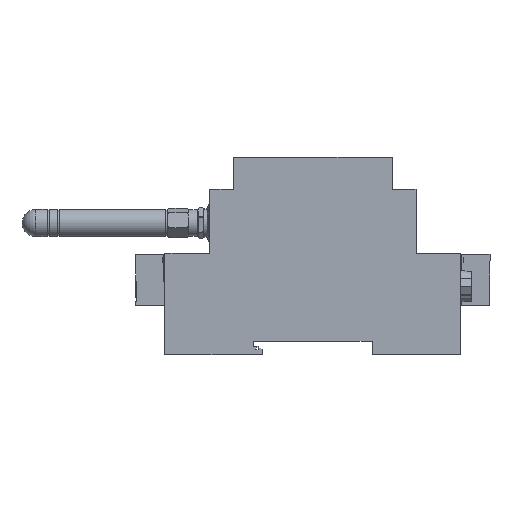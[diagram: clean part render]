
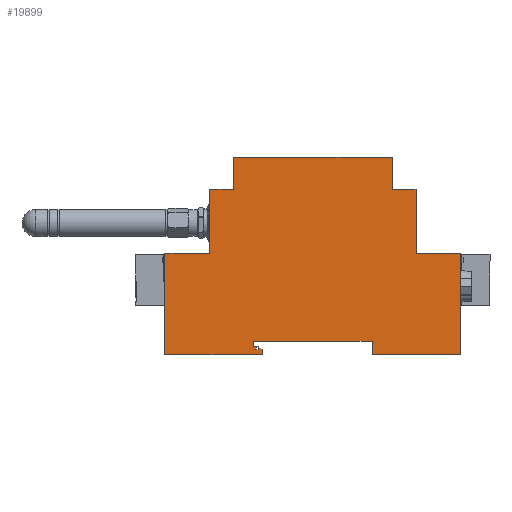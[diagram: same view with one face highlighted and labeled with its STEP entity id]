
A CAD part, left-side view. The second image highlights one B-rep face of the part: STEP entity #19899.
In plain terms, the highlighted planar face has unit normal (-1, 0, 0).
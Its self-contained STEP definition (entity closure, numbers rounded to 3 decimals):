
#19899=ADVANCED_FACE('',(#36994),#36996,.T.);
#36994=FACE_BOUND('',#36995,.T.);
#36995=EDGE_LOOP('',(#48059,#48060,#48061,#48062,#48063,#48064,#48065,#48066,#48067,
#48068,#48069,#48070,#48071,#48072,#48073,#48074,#48075,#48076,#48077,#48078,#48079,
#48080,#48081));
#36996=PLANE('',#36997);
#36997=AXIS2_PLACEMENT_3D('',#36998,#36999,#37000);
#36998=CARTESIAN_POINT('',(0.,0.,0.));
#36999=DIRECTION('',(-1.,-0.,-0.));
#37000=DIRECTION('',(0.,0.,-1.));
#48059=ORIENTED_EDGE('',*,*,#54131,.T.);
#48060=ORIENTED_EDGE('',*,*,#54132,.T.);
#48061=ORIENTED_EDGE('',*,*,#54133,.T.);
#48062=ORIENTED_EDGE('',*,*,#54134,.T.);
#48063=ORIENTED_EDGE('',*,*,#54135,.T.);
#48064=ORIENTED_EDGE('',*,*,#54136,.T.);
#48065=ORIENTED_EDGE('',*,*,#54137,.T.);
#48066=ORIENTED_EDGE('',*,*,#54138,.T.);
#48067=ORIENTED_EDGE('',*,*,#54139,.T.);
#48068=ORIENTED_EDGE('',*,*,#54140,.T.);
#48069=ORIENTED_EDGE('',*,*,#54141,.T.);
#48070=ORIENTED_EDGE('',*,*,#54142,.T.);
#48071=ORIENTED_EDGE('',*,*,#54143,.T.);
#48072=ORIENTED_EDGE('',*,*,#53130,.T.);
#48073=ORIENTED_EDGE('',*,*,#54130,.T.);
#48074=ORIENTED_EDGE('',*,*,#54144,.T.);
#48075=ORIENTED_EDGE('',*,*,#54145,.T.);
#48076=ORIENTED_EDGE('',*,*,#54146,.T.);
#48077=ORIENTED_EDGE('',*,*,#54147,.T.);
#48078=ORIENTED_EDGE('',*,*,#54148,.T.);
#48079=ORIENTED_EDGE('',*,*,#54149,.T.);
#48080=ORIENTED_EDGE('',*,*,#54150,.T.);
#48081=ORIENTED_EDGE('',*,*,#54151,.T.);
#53130=EDGE_CURVE('',#61658,#61656,#61659,.T.);
#54130=EDGE_CURVE('',#61656,#63291,#63293,.T.);
#54131=EDGE_CURVE('',#63294,#63295,#63296,.T.);
#54132=EDGE_CURVE('',#63295,#63297,#63298,.T.);
#54133=EDGE_CURVE('',#63297,#63299,#63300,.T.);
#54134=EDGE_CURVE('',#63299,#63301,#63302,.T.);
#54135=EDGE_CURVE('',#63301,#63303,#63304,.T.);
#54136=EDGE_CURVE('',#63303,#63305,#63306,.T.);
#54137=EDGE_CURVE('',#63305,#63307,#63308,.T.);
#54138=EDGE_CURVE('',#63307,#63309,#63310,.T.);
#54139=EDGE_CURVE('',#63309,#63311,#63312,.T.);
#54140=EDGE_CURVE('',#63311,#63313,#63314,.T.);
#54141=EDGE_CURVE('',#63313,#63315,#63316,.T.);
#54142=EDGE_CURVE('',#63315,#63317,#63318,.T.);
#54143=EDGE_CURVE('',#63317,#61658,#63319,.T.);
#54144=EDGE_CURVE('',#63291,#63320,#63321,.T.);
#54145=EDGE_CURVE('',#63320,#63322,#63323,.T.);
#54146=EDGE_CURVE('',#63322,#63324,#63325,.T.);
#54147=EDGE_CURVE('',#63324,#63326,#63327,.T.);
#54148=EDGE_CURVE('',#63326,#63328,#63329,.T.);
#54149=EDGE_CURVE('',#63328,#63330,#63331,.T.);
#54150=EDGE_CURVE('',#63330,#63332,#63333,.T.);
#54151=EDGE_CURVE('',#63332,#63294,#63334,.T.);
#61656=VERTEX_POINT('',#88518);
#61658=VERTEX_POINT('',#88522);
#61659=LINE('',#88523,#88524);
#63291=VERTEX_POINT('',#92613);
#63293=LINE('',#92617,#92618);
#63294=VERTEX_POINT('',#92620);
#63295=VERTEX_POINT('',#92621);
#63296=LINE('',#92622,#92623);
#63297=VERTEX_POINT('',#92625);
#63298=LINE('',#92626,#92627);
#63299=VERTEX_POINT('',#92629);
#63300=LINE('',#92630,#92631);
#63301=VERTEX_POINT('',#92633);
#63302=LINE('',#92634,#92635);
#63303=VERTEX_POINT('',#92637);
#63304=LINE('',#92638,#92639);
#63305=VERTEX_POINT('',#92641);
#63306=LINE('',#92642,#92643);
#63307=VERTEX_POINT('',#92645);
#63308=LINE('',#92646,#92647);
#63309=VERTEX_POINT('',#92649);
#63310=LINE('',#92650,#92651);
#63311=VERTEX_POINT('',#92653);
#63312=LINE('',#92654,#92655);
#63313=VERTEX_POINT('',#92657);
#63314=LINE('',#92658,#92659);
#63315=VERTEX_POINT('',#92661);
#63316=LINE('',#92662,#92663);
#63317=VERTEX_POINT('',#92665);
#63318=LINE('',#92666,#92667);
#63319=LINE('',#92669,#92670);
#63320=VERTEX_POINT('',#92672);
#63321=LINE('',#92673,#92674);
#63322=VERTEX_POINT('',#92676);
#63323=LINE('',#92677,#92678);
#63324=VERTEX_POINT('',#92680);
#63325=LINE('',#92681,#92682);
#63326=VERTEX_POINT('',#92684);
#63327=LINE('',#92685,#92686);
#63328=VERTEX_POINT('',#92688);
#63329=LINE('',#92689,#92690);
#63330=VERTEX_POINT('',#92692);
#63331=LINE('',#92693,#92694);
#63332=VERTEX_POINT('',#92696);
#63333=LINE('',#92697,#92698);
#63334=LINE('',#92700,#92701);
#88518=CARTESIAN_POINT('',(0.,-20.25,28.5));
#88522=CARTESIAN_POINT('',(0.,-67.25,28.5));
#88523=CARTESIAN_POINT('',(0.,-67.25,28.5));
#88524=VECTOR('',#88525,1.);
#88525=DIRECTION('',(0.,1.,0.));
#92613=CARTESIAN_POINT('',(0.,-20.25,19.));
#92617=CARTESIAN_POINT('',(0.,-20.25,28.5));
#92618=VECTOR('',#92619,1.);
#92619=DIRECTION('',(0.,0.,-1.));
#92620=CARTESIAN_POINT('',(0.,-26.91,-28.268));
#92621=CARTESIAN_POINT('',(0.,-27.188,-28.5));
#92622=CARTESIAN_POINT('',(0.,-26.91,-28.268));
#92623=VECTOR('',#92624,1.);
#92624=DIRECTION('',(0.,-0.768,-0.64));
#92625=CARTESIAN_POINT('',(0.,-27.55,-28.5));
#92626=CARTESIAN_POINT('',(0.,-27.188,-28.5));
#92627=VECTOR('',#92628,1.);
#92628=DIRECTION('',(0.,-1.,0.));
#92629=CARTESIAN_POINT('',(0.,-27.55,-27.5));
#92630=CARTESIAN_POINT('',(0.,-27.55,-28.5));
#92631=VECTOR('',#92632,1.);
#92632=DIRECTION('',(0.,0.,1.));
#92633=CARTESIAN_POINT('',(0.,-26.25,-27.5));
#92634=CARTESIAN_POINT('',(0.,-27.55,-27.5));
#92635=VECTOR('',#92636,1.);
#92636=DIRECTION('',(0.,1.,0.));
#92637=CARTESIAN_POINT('',(0.,-26.25,-26.));
#92638=CARTESIAN_POINT('',(0.,-26.25,-27.5));
#92639=VECTOR('',#92640,1.);
#92640=DIRECTION('',(0.,0.,1.));
#92641=CARTESIAN_POINT('',(0.,-61.25,-26.));
#92642=CARTESIAN_POINT('',(0.,-26.25,-26.));
#92643=VECTOR('',#92644,1.);
#92644=DIRECTION('',(0.,-1.,0.));
#92645=CARTESIAN_POINT('',(0.,-61.25,-30.008));
#92646=CARTESIAN_POINT('',(0.,-61.25,-26.));
#92647=VECTOR('',#92648,1.);
#92648=DIRECTION('',(0.,0.,-1.));
#92649=CARTESIAN_POINT('',(0.,-87.5,-30.));
#92650=CARTESIAN_POINT('',(0.,-61.25,-30.008));
#92651=VECTOR('',#92652,1.);
#92652=DIRECTION('',(0.,-1.,0.));
#92653=CARTESIAN_POINT('',(0.,-87.5,0.));
#92654=CARTESIAN_POINT('',(0.,-87.5,-30.));
#92655=VECTOR('',#92656,1.);
#92656=DIRECTION('',(0.,0.,1.));
#92657=CARTESIAN_POINT('',(0.,-74.25,0.));
#92658=CARTESIAN_POINT('',(0.,-87.5,0.));
#92659=VECTOR('',#92660,1.);
#92660=DIRECTION('',(0.,1.,0.));
#92661=CARTESIAN_POINT('',(0.,-74.25,19.));
#92662=CARTESIAN_POINT('',(0.,-74.25,0.));
#92663=VECTOR('',#92664,1.);
#92664=DIRECTION('',(0.,0.,1.));
#92665=CARTESIAN_POINT('',(0.,-67.25,19.));
#92666=CARTESIAN_POINT('',(0.,-74.25,19.));
#92667=VECTOR('',#92668,1.);
#92668=DIRECTION('',(0.,1.,0.));
#92669=CARTESIAN_POINT('',(0.,-67.25,19.));
#92670=VECTOR('',#92671,1.);
#92671=DIRECTION('',(0.,0.,1.));
#92672=CARTESIAN_POINT('',(0.,-13.25,19.));
#92673=CARTESIAN_POINT('',(0.,-20.25,19.));
#92674=VECTOR('',#92675,1.);
#92675=DIRECTION('',(0.,1.,0.));
#92676=CARTESIAN_POINT('',(0.,-13.25,0.));
#92677=CARTESIAN_POINT('',(0.,-13.25,19.));
#92678=VECTOR('',#92679,1.);
#92679=DIRECTION('',(0.,0.,-1.));
#92680=CARTESIAN_POINT('',(0.,0.,0.));
#92681=CARTESIAN_POINT('',(0.,-13.25,0.));
#92682=VECTOR('',#92683,1.);
#92683=DIRECTION('',(0.,1.,0.));
#92684=CARTESIAN_POINT('',(0.,0.,-30.));
#92685=CARTESIAN_POINT('',(0.,0.,0.));
#92686=VECTOR('',#92687,1.);
#92687=DIRECTION('',(0.,0.,-1.));
#92688=CARTESIAN_POINT('',(0.,-28.75,-30.));
#92689=CARTESIAN_POINT('',(0.,0.,-30.));
#92690=VECTOR('',#92691,1.);
#92691=DIRECTION('',(0.,-1.,0.));
#92692=CARTESIAN_POINT('',(0.,-28.75,-28.5));
#92693=CARTESIAN_POINT('',(0.,-28.75,-30.));
#92694=VECTOR('',#92695,1.);
#92695=DIRECTION('',(0.,0.,1.));
#92696=CARTESIAN_POINT('',(0.,-27.55,-27.5));
#92697=CARTESIAN_POINT('',(0.,-28.75,-28.5));
#92698=VECTOR('',#92699,1.);
#92699=DIRECTION('',(0.,0.768,0.64));
#92700=CARTESIAN_POINT('',(0.,-27.55,-27.5));
#92701=VECTOR('',#92702,1.);
#92702=DIRECTION('',(0.,0.64,-0.768));
